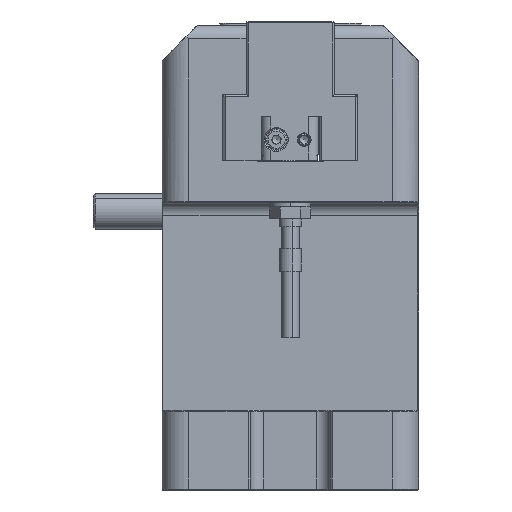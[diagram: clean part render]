
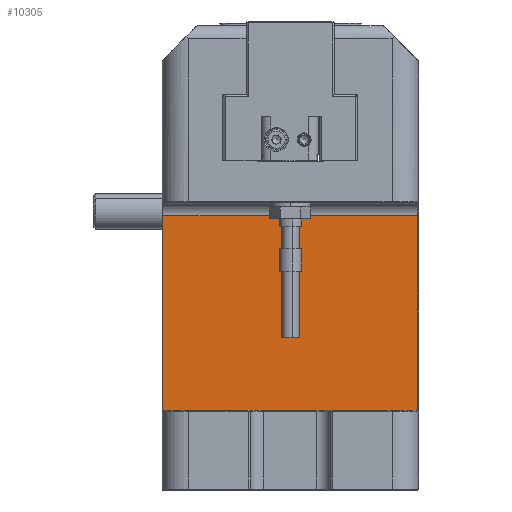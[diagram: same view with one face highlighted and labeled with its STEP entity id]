
A CAD part, left-side view. The second image highlights one B-rep face of the part: STEP entity #10305.
In plain terms, the highlighted planar face has unit normal (-1, 0, 0).
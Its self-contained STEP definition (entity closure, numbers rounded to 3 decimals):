
#9071=PLANE('',#32878);
#10305=ADVANCED_FACE('',(#12026),#9071,.F.);
#12026=FACE_OUTER_BOUND('',#13487,.T.);
#13487=EDGE_LOOP('',(#20183,#20184,#20185,#20186));
#15366=LINE('',#43758,#17543);
#15376=LINE('',#43787,#17553);
#15377=LINE('',#43789,#17554);
#15378=LINE('',#43791,#17555);
#17543=VECTOR('',#36107,1.);
#17553=VECTOR('',#36127,1.);
#17554=VECTOR('',#36128,1.);
#17555=VECTOR('',#36129,1.);
#20183=ORIENTED_EDGE('',*,*,#28840,.T.);
#20184=ORIENTED_EDGE('',*,*,#28854,.T.);
#20185=ORIENTED_EDGE('',*,*,#28855,.T.);
#20186=ORIENTED_EDGE('',*,*,#28856,.T.);
#26637=VERTEX_POINT('',#43759);
#26638=VERTEX_POINT('',#43760);
#26651=VERTEX_POINT('',#43788);
#26652=VERTEX_POINT('',#43790);
#28840=EDGE_CURVE('',#26637,#26638,#15366,.T.);
#28854=EDGE_CURVE('',#26638,#26651,#15376,.T.);
#28855=EDGE_CURVE('',#26651,#26652,#15377,.T.);
#28856=EDGE_CURVE('',#26652,#26637,#15378,.T.);
#32878=AXIS2_PLACEMENT_3D('',#43792,#36130,#36131);
#36107=DIRECTION('',(0.,-1.,0.));
#36127=DIRECTION('',(0.,0.,1.));
#36128=DIRECTION('',(0.,1.,0.));
#36129=DIRECTION('',(0.,0.,-1.));
#36130=DIRECTION('',(1.,0.,0.));
#36131=DIRECTION('',(0.,0.,-1.));
#43758=CARTESIAN_POINT('',(-52.,29.,-87.));
#43759=CARTESIAN_POINT('',(-52.,28.8,-87.));
#43760=CARTESIAN_POINT('',(-52.,-28.8,-87.));
#43787=CARTESIAN_POINT('',(-52.,-28.8,-43.));
#43788=CARTESIAN_POINT('',(-52.,-28.8,-43.));
#43789=CARTESIAN_POINT('',(-52.,29.,-43.));
#43790=CARTESIAN_POINT('',(-52.,28.8,-43.));
#43791=CARTESIAN_POINT('',(-52.,28.8,-87.));
#43792=CARTESIAN_POINT('',(-52.,0.,0.));
